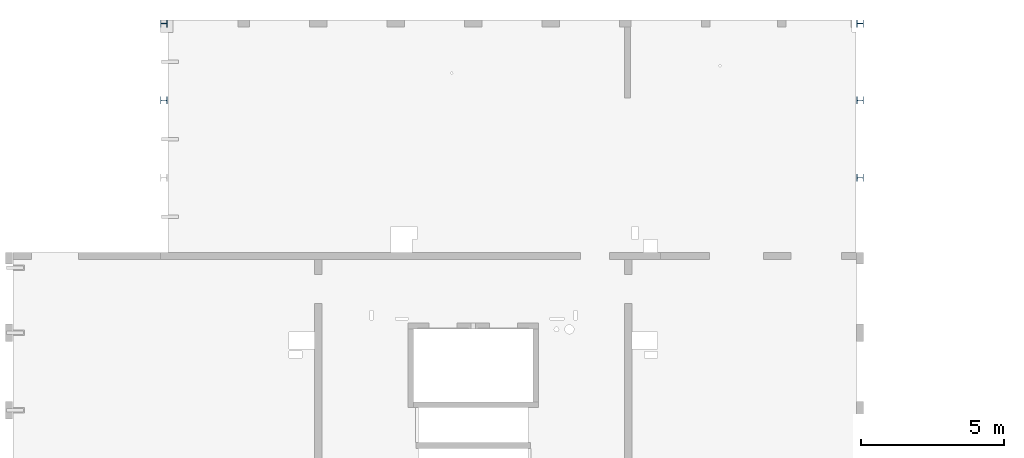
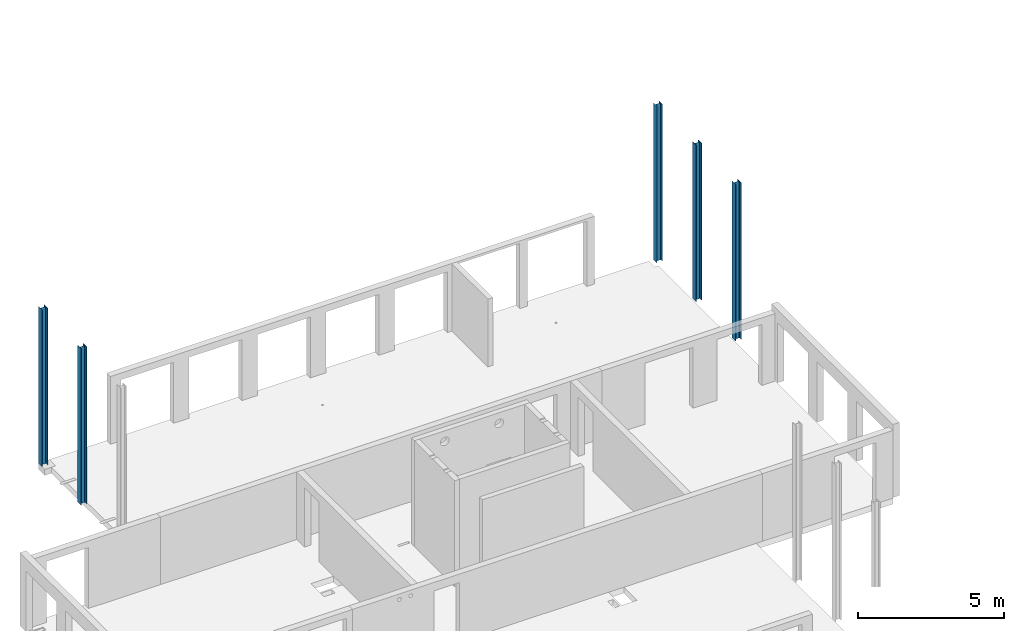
# One storey, part 2 of 10: 5 columns.
"""IFC2X3 building model written with IfcOpenShell, lengths in millimetres."""

import ifcopenshell
import ifcopenshell.guid

model = None  # the IFC model being written
_history = None  # IfcOwnerHistory: only IFC2X3 demands one
_inside = {}  # id of a spatial element -> (the spatial element, [elements in it])
_under = {}  # id of a project, library or spatial element -> (it, [spatial elements below it])
_declared = {}  # id of a project -> (the project, [libraries it declares])
_typed = {}  # id of a type object -> (the type object, [elements of that type])
_made_of = {}  # id of a material, layer set ... -> (it, [elements and type objects made of it])


def new_model(schema):
    """Start an empty IFC model of exactly this schema.

    Asked for "IFC4X3", IfcOpenShell would pick the latest addendum, in which some entities
    have other attributes; the version numbers below select the first issue.
    IFC2X3 requires an IfcOwnerHistory on every rooted entity: one is made here for all.
    """
    global model, _history
    if schema == "IFC4X3":
        model = ifcopenshell.file(schema_version=(4, 3, 0, 0))
    else:
        model = ifcopenshell.file(schema=schema)
    _inside.clear()
    _under.clear()
    _declared.clear()
    _typed.clear()
    _made_of.clear()
    _history = None
    if model.schema == "IFC2X3":
        org = make("IfcOrganization", Name="unknown")
        user = make(
            "IfcPersonAndOrganization",
            ThePerson=make("IfcPerson", FamilyName="unknown"),
            TheOrganization=org,
        )
        app = make(
            "IfcApplication",
            ApplicationDeveloper=org,
            Version="unknown",
            ApplicationFullName="unknown",
            ApplicationIdentifier="unknown",
        )
        _history = make(
            "IfcOwnerHistory",
            OwningUser=user,
            OwningApplication=app,
            ChangeAction="ADDED",
            CreationDate=0,
        )
    return model


def make(cls, **values):
    """One entity of the class cls with the attributes given. An attribute that is None is left unset."""
    return model.create_entity(
        cls, **{name: value for name, value in values.items() if value is not None}
    )


def entity(cls, *values):
    """Any entity or typed value of the class cls, its attributes in the order of the schema. None: left unset."""
    e = model.create_entity(cls)
    for i, value in enumerate(values):
        if value is not None:
            e[i] = value
    return e


def rooted(cls, **values):
    """An entity with a GlobalId (a new one), such as an element, a storey or a relation."""
    return make(cls, GlobalId=ifcopenshell.guid.new(), OwnerHistory=_history, **values)


def si_unit(unit_type, name, prefix=None):
    """IfcSIUnit, for example si_unit("LENGTHUNIT", "METRE", prefix="MILLI")."""
    return make("IfcSIUnit", UnitType=unit_type, Prefix=prefix, Name=name)


def converted_unit(unit_type, name, factor, base, dimensions=None, offset=None):
    """IfcConversionBasedUnit, such as the inch: factor (a typed value) times the base unit."""
    return make(
        "IfcConversionBasedUnit"
        if offset is None
        else "IfcConversionBasedUnitWithOffset",
        ConversionOffset=offset,
        Dimensions=None
        if dimensions is None
        else entity("IfcDimensionalExponents", *dimensions),
        UnitType=unit_type,
        Name=name,
        ConversionFactor=make(
            "IfcMeasureWithUnit", ValueComponent=factor, UnitComponent=base
        ),
    )


def derived_unit(unit_type, elements):
    """IfcDerivedUnit: a product of units, each with its exponent."""
    return make(
        "IfcDerivedUnit",
        Elements=[
            make("IfcDerivedUnitElement", Unit=unit, Exponent=power)
            for unit, power in elements
        ],
        UnitType=unit_type,
    )


def assignment(units):
    """IfcUnitAssignment: the units of a project."""
    return None if units is None else make("IfcUnitAssignment", Units=units)


def point(xyz):
    """IfcCartesianPoint."""
    return None if xyz is None else make("IfcCartesianPoint", Coordinates=xyz)


def direction(xyz):
    """IfcDirection."""
    return None if xyz is None else make("IfcDirection", DirectionRatios=xyz)


def frame(location, z_axis=None, x_axis=None):
    """IfcAxis2Placement3D, a coordinate frame: its origin and axes. An axis left out is left unset."""
    return make(
        "IfcAxis2Placement3D",
        Location=point(location),
        Axis=direction(z_axis),
        RefDirection=direction(x_axis),
    )


def frame_2d(location, x_axis=None):
    """IfcAxis2Placement2D, a coordinate frame in the plane: its origin and x axis."""
    return make(
        "IfcAxis2Placement2D", Location=point(location), RefDirection=direction(x_axis)
    )


def origin():
    """The frame at (0, 0, 0) with its axes left unset."""
    return frame((0.0, 0.0, 0.0))


def place(relative_to, where):
    """IfcLocalPlacement: puts the frame where relative to a parent placement (None: the world)."""
    return make(
        "IfcLocalPlacement", PlacementRelTo=relative_to, RelativePlacement=where
    )


def context(
    kind, dimensions, precision=None, world=None, true_north=None, identifier=None
):
    """IfcGeometricRepresentationContext, for example the 3D "Model" context."""
    return make(
        "IfcGeometricRepresentationContext",
        ContextIdentifier=identifier,
        ContextType=kind,
        CoordinateSpaceDimension=dimensions,
        Precision=precision,
        WorldCoordinateSystem=world,
        TrueNorth=true_north,
    )


def subcontext(parent, identifier, kind, view, scale=None):
    """IfcGeometricRepresentationSubContext, for example "Body" below "Model"."""
    return make(
        "IfcGeometricRepresentationSubContext",
        ContextIdentifier=identifier,
        ContextType=kind,
        ParentContext=parent,
        TargetScale=scale,
        TargetView=view,
    )


def project(units=None, contexts=None):
    """IfcProject with its units and contexts."""
    return rooted(
        "IfcProject",
        Name="project",
        RepresentationContexts=contexts,
        UnitsInContext=assignment(units),
    )


def spatial(cls, under=None, at=None, **own):
    """A site, building, storey or space (cls), placed at a placement, below another one or the project."""
    s = rooted(cls, ObjectPlacement=at, **own)
    if under is not None:
        _under.setdefault(under.id(), (under, []))[1].append(s)
    return s


def polyline(points):
    """IfcPolyline through the points."""
    return make("IfcPolyline", Points=[point(p) for p in points])


def circle_curve(where, radius):
    """IfcCircle in the frame where."""
    return make("IfcCircle", Position=where, Radius=radius)


def parameter(value):
    """IfcParameterValue: where a trimmed curve begins or ends, as a parameter of its basis curve."""
    return model.create_entity("IfcParameterValue", value)


def trimmed(basis, trim1, trim2, sense, master):
    """IfcTrimmedCurve: the piece of a basis curve between two trims."""
    return make(
        "IfcTrimmedCurve",
        BasisCurve=basis,
        Trim1=trim1,
        Trim2=trim2,
        SenseAgreement=sense,
        MasterRepresentation=master,
    )


def segment(curve, same_sense, transition):
    """IfcCompositeCurveSegment."""
    return make(
        "IfcCompositeCurveSegment",
        Transition=transition,
        SameSense=same_sense,
        ParentCurve=curve,
    )


def composite_curve(segments, self_intersect=None):
    """IfcCompositeCurve: segments joined end to end."""
    return make("IfcCompositeCurve", Segments=segments, SelfIntersect=self_intersect)


def outline(outer, holes=None, kind="AREA"):
    """IfcArbitraryClosedProfileDef: a profile drawn as a closed curve; with holes, ...WithVoids."""
    if holes is None:
        return make("IfcArbitraryClosedProfileDef", ProfileType=kind, OuterCurve=outer)
    return make(
        "IfcArbitraryProfileDefWithVoids",
        ProfileType=kind,
        OuterCurve=outer,
        InnerCurves=holes,
    )


def extrude(swept, where, along, depth):
    """IfcExtrudedAreaSolid: the profile swept, set in the frame where, extruded along a direction by depth."""
    return make(
        "IfcExtrudedAreaSolid",
        SweptArea=swept,
        Position=where,
        ExtrudedDirection=direction(along),
        Depth=depth,
    )


def shape(context_of_items, identifier, shape_type, items):
    """IfcShapeRepresentation: the items that make up one representation, for example the "Body"."""
    return make(
        "IfcShapeRepresentation",
        ContextOfItems=context_of_items,
        RepresentationIdentifier=identifier,
        RepresentationType=shape_type,
        Items=items,
    )


def source(mapping_origin, context_of_items, identifier, shape_type, items):
    """IfcRepresentationMap: a shape defined once, which mapped items show again and again."""
    return make(
        "IfcRepresentationMap",
        MappingOrigin=mapping_origin,
        MappedRepresentation=shape(context_of_items, identifier, shape_type, items),
    )


def transform(
    local_origin,
    x_axis=None,
    y_axis=None,
    z_axis=None,
    scale=None,
    scale2=None,
    scale3=None,
    uniform=True,
):
    """IfcCartesianTransformationOperator3D, or its non-uniform kind. x_axis, y_axis, z_axis: its Axis1, 2, 3."""
    if uniform:
        return make(
            "IfcCartesianTransformationOperator3D",
            Axis1=direction(x_axis),
            Axis2=direction(y_axis),
            LocalOrigin=point(local_origin),
            Scale=scale,
            Axis3=direction(z_axis),
        )
    return make(
        "IfcCartesianTransformationOperator3DnonUniform",
        Axis1=direction(x_axis),
        Axis2=direction(y_axis),
        LocalOrigin=point(local_origin),
        Scale=scale,
        Axis3=direction(z_axis),
        Scale2=scale2,
        Scale3=scale3,
    )


def mapped(mapping_source, mapping_target):
    """IfcMappedItem: shows the shape of a source again, moved by a transform."""
    return make(
        "IfcMappedItem", MappingSource=mapping_source, MappingTarget=mapping_target
    )


def material(Name=None, Category=None):
    """IfcMaterial."""
    return make("IfcMaterial", Name=Name, Category=Category)


def made_of(thing, what):
    """Note that an element or type object is made of a material, layer set ...; save() writes the relation."""
    if what is not None:
        _made_of.setdefault(what.id(), (what, []))[1].append(thing)
    return thing


def type_object(cls, material=None, **own):
    """A type object (cls), such as IfcWallType, which elements share."""
    return made_of(rooted(cls, **own), material)


def type_shapes(of_type, sources):
    """Give a type object the sources (RepresentationMaps) that its elements show as mapped items."""
    of_type.RepresentationMaps = sources


def element(
    cls,
    number,
    at=None,
    inside=None,
    cuts=None,
    type_object=None,
    material=None,
    context=None,
    identifier="Body",
    shape_type=None,
    held_by="IfcProductDefinitionShape",
    body=None,
    shapes=None,
    **own,
):
    """One element of the class cls, such as IfcWall. Its Tag is "e" and its number.

    at: its placement. inside: the storey or other place that contains it. cuts: it is an
    opening in that element (IfcRelVoidsElement). A single representation is given by context,
    identifier, shape_type and body (its items); several are given by shapes. held_by: the class
    of the entity that holds the representations. save() writes the other relations.
    """
    e = rooted(cls, Tag="e%d" % number, ObjectPlacement=at, **own)
    if body is not None:
        shapes = [shape(context, identifier, shape_type, body)]
    if shapes is not None:
        e.Representation = make(held_by, Representations=shapes)
    if inside is not None:
        _inside.setdefault(inside.id(), (inside, []))[1].append(e)
    if cuts is not None:
        rooted(
            "IfcRelVoidsElement", RelatingBuildingElement=cuts, RelatedOpeningElement=e
        )
    if type_object is not None:
        _typed.setdefault(type_object.id(), (type_object, []))[1].append(e)
    return made_of(e, material)


def aggregate(whole, parts):
    """IfcRelAggregates: a whole, such as a stair, and the parts it consists of."""
    return rooted("IfcRelAggregates", RelatingObject=whole, RelatedObjects=parts)


def save(model, path):
    """Write the relations noted so far, then the file.

    IfcRelAggregates (storeys below a building ...), IfcRelContainedInSpatialStructure (elements
    in a storey), IfcRelDefinesByType, IfcRelAssociatesMaterial and IfcRelDeclares: one each for
    every whole, place, type object, material and project.
    """
    for whole, parts in _under.values():
        aggregate(whole, parts)
    for where, things in _inside.values():
        rooted(
            "IfcRelContainedInSpatialStructure",
            RelatedElements=things,
            RelatingStructure=where,
        )
    for kind, things in _typed.values():
        rooted("IfcRelDefinesByType", RelatedObjects=things, RelatingType=kind)
    for what, things in _made_of.values():
        rooted("IfcRelAssociatesMaterial", RelatedObjects=things, RelatingMaterial=what)
    for by, libraries in _declared.values():
        rooted("IfcRelDeclares", RelatingContext=by, RelatedDefinitions=libraries)
    model.write(path)


model = new_model("IFC2X3")

# Units and contexts
model_context = context("Model", 3, precision=0.01, world=origin(), true_north=direction((6.12303176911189e-17, 1.0)))
body_context = subcontext(model_context, "Body", "Model", "MODEL_VIEW")
ifc_project = project(units=[si_unit("LENGTHUNIT", "METRE", prefix="MILLI"), si_unit("AREAUNIT", "SQUARE_METRE"), si_unit("VOLUMEUNIT", "CUBIC_METRE"), converted_unit("PLANEANGLEUNIT", "DEGREE", entity("IfcRatioMeasure", 0.0174532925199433), si_unit("PLANEANGLEUNIT", "RADIAN"), dimensions=[0, 0, 0, 0, 0, 0, 0]), si_unit("MASSUNIT", "GRAM", prefix="KILO"), derived_unit("MASSDENSITYUNIT", [(si_unit("MASSUNIT", "GRAM", prefix="KILO"), 1), (si_unit("LENGTHUNIT", "METRE"), -3)]), si_unit("TIMEUNIT", "SECOND"), si_unit("FREQUENCYUNIT", "HERTZ"), si_unit("THERMODYNAMICTEMPERATUREUNIT", "DEGREE_CELSIUS"), derived_unit("THERMALTRANSMITTANCEUNIT", [(si_unit("MASSUNIT", "GRAM", prefix="KILO"), 1), (si_unit("THERMODYNAMICTEMPERATUREUNIT", "KELVIN"), -1), (si_unit("TIMEUNIT", "SECOND"), -3)]), derived_unit("VOLUMETRICFLOWRATEUNIT", [(si_unit("LENGTHUNIT", "METRE"), 3), (si_unit("TIMEUNIT", "SECOND"), -1)]), si_unit("ELECTRICCURRENTUNIT", "AMPERE"), si_unit("ELECTRICVOLTAGEUNIT", "VOLT"), si_unit("POWERUNIT", "WATT"), si_unit("FORCEUNIT", "NEWTON", prefix="KILO"), si_unit("ILLUMINANCEUNIT", "LUX"), si_unit("LUMINOUSFLUXUNIT", "LUMEN"), si_unit("LUMINOUSINTENSITYUNIT", "CANDELA"), derived_unit("USERDEFINED", [(si_unit("MASSUNIT", "GRAM", prefix="KILO"), -1), (si_unit("LENGTHUNIT", "METRE"), -2), (si_unit("TIMEUNIT", "SECOND"), 3), (si_unit("LUMINOUSFLUXUNIT", "LUMEN"), 1)]), derived_unit("LINEARVELOCITYUNIT", [(si_unit("LENGTHUNIT", "METRE"), 1), (si_unit("TIMEUNIT", "SECOND"), -1)]), si_unit("PRESSUREUNIT", "PASCAL"), derived_unit("USERDEFINED", [(si_unit("LENGTHUNIT", "METRE"), -2), (si_unit("MASSUNIT", "GRAM", prefix="KILO"), 1), (si_unit("TIMEUNIT", "SECOND"), -2)])], contexts=[model_context])

# Site, building, storey
site_placement = place(None, origin())
site = spatial("IfcSite", under=ifc_project, at=site_placement, Name="Default", CompositionType="ELEMENT")
building_placement = place(site_placement, origin())
building = spatial("IfcBuilding", under=site, at=building_placement, Name="niet gebruiken", CompositionType="ELEMENT")
storey_placement = place(building_placement, frame((0.0, 0.0, 63090.0)))
storey = spatial("IfcBuildingStorey", under=building, at=storey_placement, Name="21 eenentwintigste verdieping", CompositionType="ELEMENT", Elevation=63090.0)

# Columns
ifc_material = material(Name="NLRS_h2_staal")
column_type = type_object("IfcColumnType", Name="kolom HEA 240", PredefinedType="COLUMN", material=ifc_material)
shared_shape = source(origin(), body_context, "Body", "SweptSolid", [
    extrude(outline(composite_curve([segment(polyline([(103.0, -120.0), (115.0, -120.0)]), True, "CONTINUOUS"), segment(polyline([(115.0, -120.0), (115.0, 120.0)]), True, "CONTINUOUS"), segment(polyline([(115.0, 120.0), (103.0, 120.0)]), True, "CONTINUOUS"), segment(polyline([(103.0, 120.0), (103.0, 24.7499999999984)]), True, "CONTINUOUS"), segment(trimmed(circle_curve(frame_2d((82.0, 24.7499999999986), x_axis=(1.0, 0.0)), 21.0), [parameter(270.0)], [parameter(0.0)], True, "PARAMETER"), False, "CONTINUOUS"), segment(polyline([(82.0, 3.74999999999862), (-82.0, 3.74999999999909)]), True, "CONTINUOUS"), segment(trimmed(circle_curve(frame_2d((-82.0, 24.7499999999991), x_axis=(0.0, -1.0)), 21.0), [parameter(270.0)], [parameter(0.0)], True, "PARAMETER"), False, "CONTINUOUS"), segment(polyline([(-103.0, 24.7499999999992), (-103.0, 120.0)]), True, "CONTINUOUS"), segment(polyline([(-103.0, 120.0), (-115.0, 120.0)]), True, "CONTINUOUS"), segment(polyline([(-115.0, 120.0), (-115.0, -120.0)]), True, "CONTINUOUS"), segment(polyline([(-115.0, -120.0), (-103.0, -120.0)]), True, "CONTINUOUS"), segment(polyline([(-103.0, -120.0), (-103.0, -24.7500000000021)]), True, "CONTINUOUS"), segment(trimmed(circle_curve(frame_2d((-82.0, -24.7500000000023), x_axis=(-1.0, 0.0)), 21.0), [parameter(270.0)], [parameter(0.0)], True, "PARAMETER"), False, "CONTINUOUS"), segment(polyline([(-82.0, -3.75000000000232), (82.0, -3.75000000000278)]), True, "CONTINUOUS"), segment(trimmed(circle_curve(frame_2d((82.0, -24.7500000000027), x_axis=(0.0, 1.0)), 21.0), [parameter(270.0)], [parameter(0.0)], True, "PARAMETER"), False, "CONTINUOUS"), segment(polyline([(103.0, -24.7500000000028), (103.0, -120.0)]), True, "CONTINUOUS")], self_intersect=False)), frame((0.0, 0.0, 63000.0), z_axis=(0.0, 0.0, 1.0), x_axis=(0.0, -1.0, 0.0)), (0.0, 0.0, 1.0), 6539.99999999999),
])
type_shapes(column_type, [shared_shape])
for number, where, z_axis, x_axis, name in (
    (1, (56680.0, 47756.0, -63090.0), (0.0, 0.0, 1.0), (0.0, -1.0, 0.0), "NLRS_28.11_SCO_TLB_stalen kolom HEA_gen:kolom HEA 240"),
    (2, (56680.0, 50456.0, -63090.0), (0.0, 0.0, 1.0), (0.0, -1.0, 0.0), "NLRS_28.11_SCO_TLB_stalen kolom HEA_gen:kolom HEA 240"),
    (3, (56680.0, 53131.0, -63090.0), (0.0, 0.0, 1.0), (0.0, -1.0, 0.0), "NLRS_28.11_SCO_TLB_stalen kolom HEA_gen:kolom HEA 240"),
    (4, (32420.0, 53131.0, -63090.0), (0.0, 0.0, 1.0), (0.0, -1.0, 0.0), "NLRS_28.11_SCO_TLB_stalen kolom HEA_gen:kolom HEA 240"),
    (5, (32420.0, 50456.0, -63090.0), (0.0, 0.0, 1.0), (0.0, -1.0, 0.0), "NLRS_28.11_SCO_TLB_stalen kolom HEA_gen:kolom HEA 240"),
):
    element("IfcColumn", number, at=place(storey_placement, frame(where, z_axis=z_axis, x_axis=x_axis)), inside=storey, type_object=column_type, material=ifc_material, Name=name, ObjectType="kolom HEA 240", context=body_context, shape_type="MappedRepresentation", body=[
        mapped(shared_shape, transform((0.0, 0.0, 0.0), scale=1.0)),
    ])

save(model, "model.ifc")
